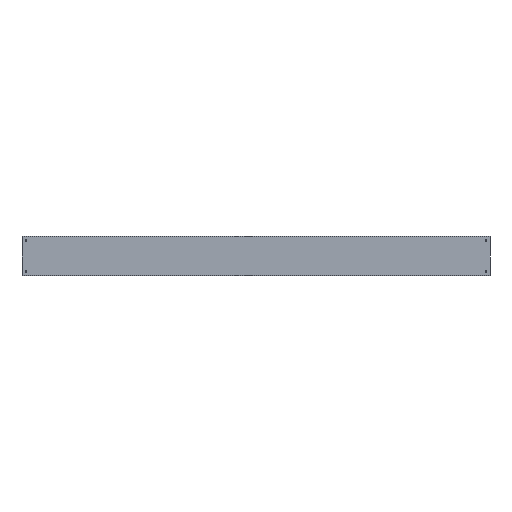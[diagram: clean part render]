
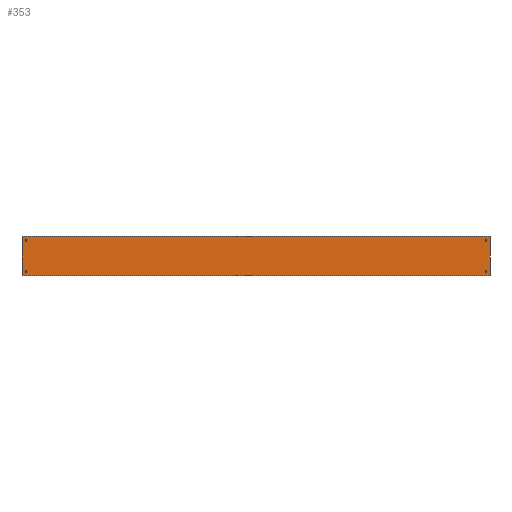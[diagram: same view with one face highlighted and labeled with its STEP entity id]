
A CAD part, top view. The second image highlights one B-rep face of the part: STEP entity #353.
In plain terms, the highlighted planar face has unit normal (0, 0, 1).
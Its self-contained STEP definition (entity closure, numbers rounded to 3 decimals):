
#30=FACE_BOUND('',#82,.T.);
#31=FACE_BOUND('',#83,.T.);
#32=FACE_BOUND('',#84,.T.);
#33=FACE_BOUND('',#85,.T.);
#42=CIRCLE('',#383,5.);
#43=CIRCLE('',#384,5.);
#44=CIRCLE('',#385,5.);
#45=CIRCLE('',#386,5.);
#46=CIRCLE('',#387,5.);
#47=CIRCLE('',#388,5.);
#48=CIRCLE('',#389,5.);
#49=CIRCLE('',#390,5.);
#59=FACE_OUTER_BOUND('',#81,.T.);
#81=EDGE_LOOP('',(#290,#291,#292,#293));
#82=EDGE_LOOP('',(#294,#295));
#83=EDGE_LOOP('',(#296,#297));
#84=EDGE_LOOP('',(#298,#299));
#85=EDGE_LOOP('',(#300,#301));
#101=LINE('',#524,#133);
#103=LINE('',#530,#135);
#110=LINE('',#543,#142);
#117=LINE('',#572,#149);
#133=VECTOR('',#413,304.8);
#135=VECTOR('',#417,304.8);
#142=VECTOR('',#426,304.8);
#149=VECTOR('',#461,304.8);
#158=VERTEX_POINT('',#509);
#165=VERTEX_POINT('',#522);
#167=VERTEX_POINT('',#527);
#168=VERTEX_POINT('',#529);
#182=VERTEX_POINT('',#574);
#183=VERTEX_POINT('',#575);
#184=VERTEX_POINT('',#578);
#185=VERTEX_POINT('',#579);
#186=VERTEX_POINT('',#582);
#187=VERTEX_POINT('',#583);
#188=VERTEX_POINT('',#586);
#189=VERTEX_POINT('',#587);
#197=EDGE_CURVE('',#165,#158,#101,.T.);
#199=EDGE_CURVE('',#167,#168,#103,.T.);
#206=EDGE_CURVE('',#158,#167,#110,.T.);
#221=EDGE_CURVE('',#168,#165,#117,.T.);
#222=EDGE_CURVE('',#182,#183,#42,.T.);
#223=EDGE_CURVE('',#183,#182,#43,.T.);
#224=EDGE_CURVE('',#184,#185,#44,.T.);
#225=EDGE_CURVE('',#185,#184,#45,.T.);
#226=EDGE_CURVE('',#186,#187,#46,.T.);
#227=EDGE_CURVE('',#187,#186,#47,.T.);
#228=EDGE_CURVE('',#188,#189,#48,.T.);
#229=EDGE_CURVE('',#189,#188,#49,.T.);
#290=ORIENTED_EDGE('',*,*,#197,.F.);
#291=ORIENTED_EDGE('',*,*,#221,.F.);
#292=ORIENTED_EDGE('',*,*,#199,.F.);
#293=ORIENTED_EDGE('',*,*,#206,.F.);
#294=ORIENTED_EDGE('',*,*,#222,.T.);
#295=ORIENTED_EDGE('',*,*,#223,.T.);
#296=ORIENTED_EDGE('',*,*,#224,.T.);
#297=ORIENTED_EDGE('',*,*,#225,.T.);
#298=ORIENTED_EDGE('',*,*,#226,.T.);
#299=ORIENTED_EDGE('',*,*,#227,.T.);
#300=ORIENTED_EDGE('',*,*,#228,.T.);
#301=ORIENTED_EDGE('',*,*,#229,.T.);
#343=PLANE('',#382);
#353=ADVANCED_FACE('',(#59,#30,#31,#32,#33),#343,.T.);
#382=AXIS2_PLACEMENT_3D('',#573,#462,#463);
#383=AXIS2_PLACEMENT_3D('',#576,#464,#465);
#384=AXIS2_PLACEMENT_3D('',#577,#466,#467);
#385=AXIS2_PLACEMENT_3D('',#580,#468,#469);
#386=AXIS2_PLACEMENT_3D('',#581,#470,#471);
#387=AXIS2_PLACEMENT_3D('',#584,#472,#473);
#388=AXIS2_PLACEMENT_3D('',#585,#474,#475);
#389=AXIS2_PLACEMENT_3D('',#588,#476,#477);
#390=AXIS2_PLACEMENT_3D('',#589,#478,#479);
#413=DIRECTION('',(0.,-1.,0.));
#417=DIRECTION('',(0.,1.,0.));
#426=DIRECTION('',(-1.,0.,0.));
#461=DIRECTION('',(1.,0.,0.));
#462=DIRECTION('center_axis',(0.,0.,1.));
#463=DIRECTION('ref_axis',(-1.,0.,0.));
#464=DIRECTION('center_axis',(0.,0.,-1.));
#465=DIRECTION('ref_axis',(1.,0.,0.));
#466=DIRECTION('center_axis',(0.,0.,-1.));
#467=DIRECTION('ref_axis',(1.,0.,0.));
#468=DIRECTION('center_axis',(0.,0.,-1.));
#469=DIRECTION('ref_axis',(1.,0.,0.));
#470=DIRECTION('center_axis',(0.,0.,-1.));
#471=DIRECTION('ref_axis',(1.,0.,0.));
#472=DIRECTION('center_axis',(0.,0.,-1.));
#473=DIRECTION('ref_axis',(1.,0.,0.));
#474=DIRECTION('center_axis',(0.,0.,-1.));
#475=DIRECTION('ref_axis',(1.,0.,0.));
#476=DIRECTION('center_axis',(0.,0.,-1.));
#477=DIRECTION('ref_axis',(1.,0.,0.));
#478=DIRECTION('center_axis',(0.,0.,-1.));
#479=DIRECTION('ref_axis',(1.,0.,0.));
#509=CARTESIAN_POINT('',(3000.,-125.,1.5));
#522=CARTESIAN_POINT('',(3000.,125.,1.5));
#524=CARTESIAN_POINT('',(3000.,125.,1.5));
#527=CARTESIAN_POINT('',(0.,-125.,1.5));
#529=CARTESIAN_POINT('',(0.,125.,1.5));
#530=CARTESIAN_POINT('',(0.,-125.,1.5));
#543=CARTESIAN_POINT('',(3000.,-125.,1.5));
#572=CARTESIAN_POINT('',(3000.,125.,1.5));
#573=CARTESIAN_POINT('Origin',(3000.,125.,1.5));
#574=CARTESIAN_POINT('',(30.,98.5,1.5));
#575=CARTESIAN_POINT('',(20.,98.5,1.5));
#576=CARTESIAN_POINT('Origin',(25.,98.5,1.5));
#577=CARTESIAN_POINT('Origin',(25.,98.5,1.5));
#578=CARTESIAN_POINT('',(30.,-98.5,1.5));
#579=CARTESIAN_POINT('',(20.,-98.5,1.5));
#580=CARTESIAN_POINT('Origin',(25.,-98.5,1.5));
#581=CARTESIAN_POINT('Origin',(25.,-98.5,1.5));
#582=CARTESIAN_POINT('',(2980.,98.5,1.5));
#583=CARTESIAN_POINT('',(2970.,98.5,1.5));
#584=CARTESIAN_POINT('Origin',(2975.,98.5,1.5));
#585=CARTESIAN_POINT('Origin',(2975.,98.5,1.5));
#586=CARTESIAN_POINT('',(2980.,-98.5,1.5));
#587=CARTESIAN_POINT('',(2970.,-98.5,1.5));
#588=CARTESIAN_POINT('Origin',(2975.,-98.5,1.5));
#589=CARTESIAN_POINT('Origin',(2975.,-98.5,1.5));
